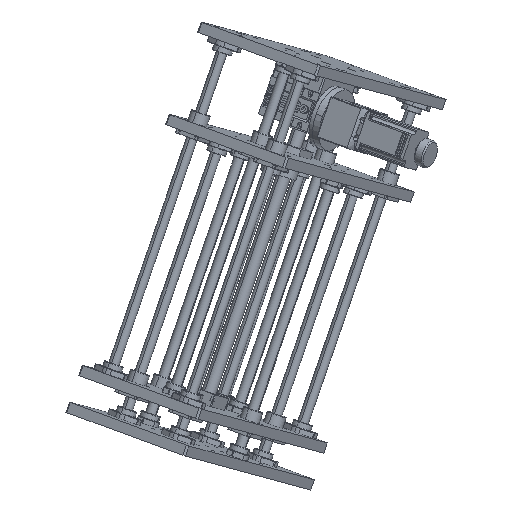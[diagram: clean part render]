
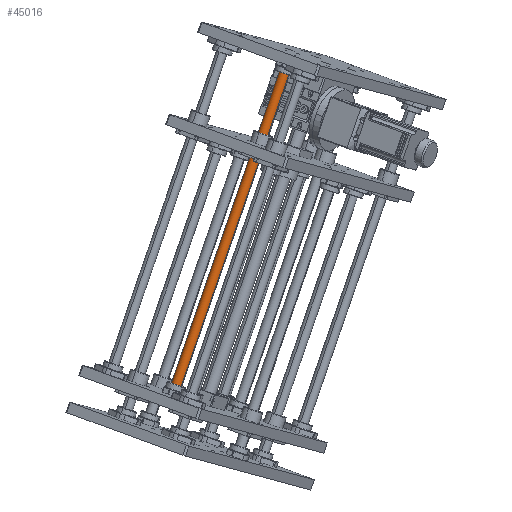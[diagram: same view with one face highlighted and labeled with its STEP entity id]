
A CAD part, isometric view. The second image highlights one B-rep face of the part: STEP entity #45016.
In plain terms, the highlighted cylindrical face has radius 7.5 mm (diameter 15 mm), a partial arc.
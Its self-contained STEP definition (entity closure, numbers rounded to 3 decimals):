
#3307 = DIRECTION ( 'NONE',  ( 0., 0., -1. ) ) ;
#5141 = VERTEX_POINT ( 'NONE', #15801 ) ;
#7636 = CARTESIAN_POINT ( 'NONE',  ( 0., -246.25, 7.5 ) ) ;
#7738 = EDGE_LOOP ( 'NONE', ( #29292, #26935, #45247, #39427 ) ) ;
#11327 = DIRECTION ( 'NONE',  ( 0., 1., 0. ) ) ;
#13607 = CARTESIAN_POINT ( 'NONE',  ( 0., -230.25, 0. ) ) ;
#15801 = CARTESIAN_POINT ( 'NONE',  ( 0., 230.25, 7.5 ) ) ;
#16747 = EDGE_CURVE ( 'NONE', #17039, #44005, #34134, .T. ) ;
#17039 = VERTEX_POINT ( 'NONE', #45094 ) ;
#17260 = DIRECTION ( 'NONE',  ( 0., 0., 1. ) ) ;
#21440 = CARTESIAN_POINT ( 'NONE',  ( 0., -246.25, -7.5 ) ) ;
#23029 = DIRECTION ( 'NONE',  ( 0., 0., 1. ) ) ;
#25221 = DIRECTION ( 'NONE',  ( 0., 1., 0. ) ) ;
#26861 = AXIS2_PLACEMENT_3D ( 'NONE', #47120, #25221, #3307 ) ;
#26926 = EDGE_CURVE ( 'NONE', #39410, #17039, #39715, .T. ) ;
#26935 = ORIENTED_EDGE ( 'NONE', *, *, #26926, .F. ) ;
#27970 = CARTESIAN_POINT ( 'NONE',  ( 0., 230.25, -7.5 ) ) ;
#29292 = ORIENTED_EDGE ( 'NONE', *, *, #16747, .F. ) ;
#30392 = DIRECTION ( 'NONE',  ( 0., 1., 0. ) ) ;
#31270 = EDGE_CURVE ( 'NONE', #44005, #5141, #46194, .T. ) ;
#31681 = VECTOR ( 'NONE', #11327, 1000. ) ;
#31724 = CYLINDRICAL_SURFACE ( 'NONE', #43997, 7.5 ) ;
#32825 = LINE ( 'NONE', #7636, #31681 ) ;
#32857 = FACE_OUTER_BOUND ( 'NONE', #7738, .T. ) ;
#34134 = LINE ( 'NONE', #21440, #45027 ) ;
#37832 = EDGE_CURVE ( 'NONE', #39410, #5141, #32825, .T. ) ;
#39147 = DIRECTION ( 'NONE',  ( 0., -1., 0. ) ) ;
#39259 = AXIS2_PLACEMENT_3D ( 'NONE', #13607, #39147, #17260 ) ;
#39410 = VERTEX_POINT ( 'NONE', #41516 ) ;
#39427 = ORIENTED_EDGE ( 'NONE', *, *, #31270, .F. ) ;
#39715 = CIRCLE ( 'NONE', #39259, 7.5 ) ;
#41516 = CARTESIAN_POINT ( 'NONE',  ( 0., -230.25, 7.5 ) ) ;
#43334 = DIRECTION ( 'NONE',  ( 0., 1., 0. ) ) ;
#43997 = AXIS2_PLACEMENT_3D ( 'NONE', #44966, #30392, #23029 ) ;
#44005 = VERTEX_POINT ( 'NONE', #27970 ) ;
#44966 = CARTESIAN_POINT ( 'NONE',  ( 0., -246.25, 0. ) ) ;
#45016 = ADVANCED_FACE ( 'NONE', ( #32857 ), #31724, .T. ) ;
#45027 = VECTOR ( 'NONE', #43334, 1000. ) ;
#45094 = CARTESIAN_POINT ( 'NONE',  ( 0., -230.25, -7.5 ) ) ;
#45247 = ORIENTED_EDGE ( 'NONE', *, *, #37832, .T. ) ;
#46194 = CIRCLE ( 'NONE', #26861, 7.5 ) ;
#47120 = CARTESIAN_POINT ( 'NONE',  ( 0., 230.25, 0. ) ) ;
